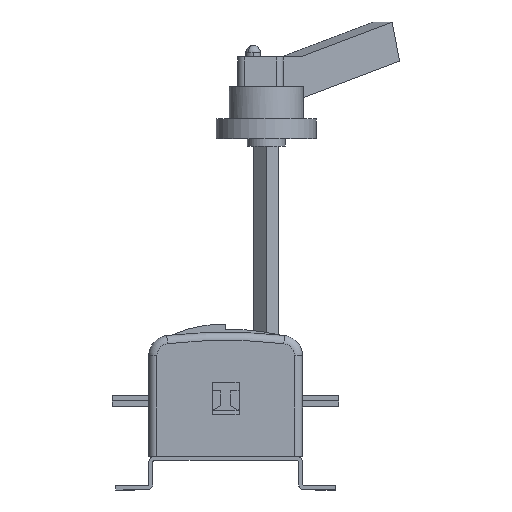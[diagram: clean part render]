
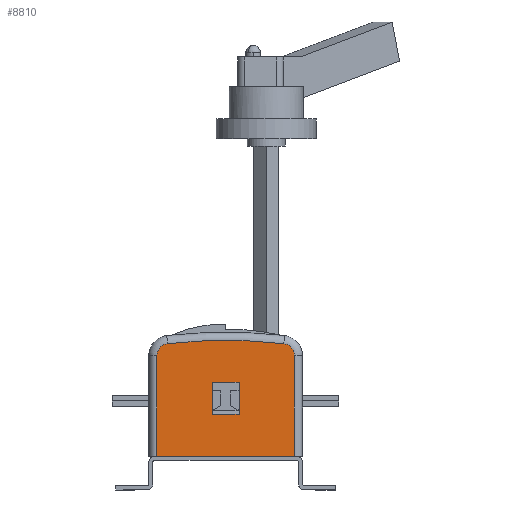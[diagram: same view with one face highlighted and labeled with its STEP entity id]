
A CAD part, left-side view. The second image highlights one B-rep face of the part: STEP entity #8810.
In plain terms, the highlighted planar face has unit normal (-1, 0, 0).
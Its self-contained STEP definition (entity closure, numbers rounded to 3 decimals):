
#116 = ORIENTED_EDGE ( 'NONE', *, *, #2321, .T. ) ;
#210 = EDGE_CURVE ( 'NONE', #6274, #11859, #9966, .T. ) ;
#326 = CARTESIAN_POINT ( 'NONE',  ( -249., -13.036, 108.516 ) ) ;
#330 = DIRECTION ( 'NONE',  ( 0., 1., 0. ) ) ;
#471 = EDGE_CURVE ( 'NONE', #4280, #2164, #4215, .T. ) ;
#644 = CIRCLE ( 'NONE', #10342, 9. ) ;
#739 = CARTESIAN_POINT ( 'NONE',  ( -249., 81., 99.576 ) ) ;
#773 = DIRECTION ( 'NONE',  ( 0., -1., 0. ) ) ;
#821 = CARTESIAN_POINT ( 'NONE',  ( -249., 30., -263. ) ) ;
#829 = DIRECTION ( 'NONE',  ( 0., 0., 1. ) ) ;
#841 = CARTESIAN_POINT ( 'NONE',  ( -249., 40., 80. ) ) ;
#1028 = VERTEX_POINT ( 'NONE', #841 ) ;
#1188 = CARTESIAN_POINT ( 'NONE',  ( -249., 72., 99.576 ) ) ;
#1281 = AXIS2_PLACEMENT_3D ( 'NONE', #5712, #4799, #5637 ) ;
#1446 = DIRECTION ( 'NONE',  ( 0., 0., -1. ) ) ;
#1587 = EDGE_CURVE ( 'NONE', #6274, #10634, #7864, .T. ) ;
#1747 = EDGE_CURVE ( 'NONE', #2164, #2145, #10164, .T. ) ;
#1827 = CARTESIAN_POINT ( 'NONE',  ( -249., 40., 56. ) ) ;
#1890 = AXIS2_PLACEMENT_3D ( 'NONE', #1188, #4865, #3008 ) ;
#2066 = CARTESIAN_POINT ( 'NONE',  ( -249., 20., 80. ) ) ;
#2145 = VERTEX_POINT ( 'NONE', #739 ) ;
#2164 = VERTEX_POINT ( 'NONE', #3648 ) ;
#2223 = CARTESIAN_POINT ( 'NONE',  ( -249., 20., 56. ) ) ;
#2321 = EDGE_CURVE ( 'NONE', #10634, #4280, #644, .T. ) ;
#2349 = VERTEX_POINT ( 'NONE', #2223 ) ;
#2698 = ORIENTED_EDGE ( 'NONE', *, *, #4512, .F. ) ;
#2909 = EDGE_LOOP ( 'NONE', ( #4701, #6748, #116, #5320, #3164, #3082 ) ) ;
#2978 = EDGE_LOOP ( 'NONE', ( #2698, #7574, #7881, #11736 ) ) ;
#3008 = DIRECTION ( 'NONE',  ( 0., 0., -1. ) ) ;
#3082 = ORIENTED_EDGE ( 'NONE', *, *, #6892, .T. ) ;
#3164 = ORIENTED_EDGE ( 'NONE', *, *, #1747, .T. ) ;
#3169 = DIRECTION ( 'NONE',  ( 0., 0., -1. ) ) ;
#3611 = VECTOR ( 'NONE', #773, 1000. ) ;
#3648 = CARTESIAN_POINT ( 'NONE',  ( -249., 73.036, 108.516 ) ) ;
#3651 = DIRECTION ( 'NONE',  ( 0., 0., -1. ) ) ;
#3720 = CARTESIAN_POINT ( 'NONE',  ( -249., -12., 99.576 ) ) ;
#3752 = LINE ( 'NONE', #1827, #3611 ) ;
#4215 = CIRCLE ( 'NONE', #11075, 374. ) ;
#4280 = VERTEX_POINT ( 'NONE', #326 ) ;
#4501 = FACE_OUTER_BOUND ( 'NONE', #2909, .T. ) ;
#4512 = EDGE_CURVE ( 'NONE', #7463, #2349, #3752, .T. ) ;
#4596 = PLANE ( 'NONE',  #1281 ) ;
#4598 = CARTESIAN_POINT ( 'NONE',  ( -249., 40., 80. ) ) ;
#4690 = DIRECTION ( 'NONE',  ( 0., 0., -1. ) ) ;
#4701 = ORIENTED_EDGE ( 'NONE', *, *, #210, .F. ) ;
#4799 = DIRECTION ( 'NONE',  ( 1., 0., 0. ) ) ;
#4865 = DIRECTION ( 'NONE',  ( -1., 0., 0. ) ) ;
#5062 = VECTOR ( 'NONE', #829, 1000. ) ;
#5320 = ORIENTED_EDGE ( 'NONE', *, *, #471, .T. ) ;
#5637 = DIRECTION ( 'NONE',  ( 0., 0., -1. ) ) ;
#5652 = EDGE_CURVE ( 'NONE', #11918, #2349, #11985, .T. ) ;
#5712 = CARTESIAN_POINT ( 'NONE',  ( -249., 30., -263. ) ) ;
#6078 = CARTESIAN_POINT ( 'NONE',  ( -249., 81., 25. ) ) ;
#6260 = VECTOR ( 'NONE', #7410, 1000. ) ;
#6274 = VERTEX_POINT ( 'NONE', #6953 ) ;
#6583 = LINE ( 'NONE', #8773, #11496 ) ;
#6748 = ORIENTED_EDGE ( 'NONE', *, *, #1587, .T. ) ;
#6892 = EDGE_CURVE ( 'NONE', #2145, #11859, #11494, .T. ) ;
#6953 = CARTESIAN_POINT ( 'NONE',  ( -249., -21., 25. ) ) ;
#7311 = FACE_BOUND ( 'NONE', #2978, .T. ) ;
#7410 = DIRECTION ( 'NONE',  ( 0., -1., 0. ) ) ;
#7463 = VERTEX_POINT ( 'NONE', #7977 ) ;
#7511 = VECTOR ( 'NONE', #9590, 1000. ) ;
#7574 = ORIENTED_EDGE ( 'NONE', *, *, #10987, .F. ) ;
#7864 = LINE ( 'NONE', #11219, #5062 ) ;
#7881 = ORIENTED_EDGE ( 'NONE', *, *, #11776, .T. ) ;
#7977 = CARTESIAN_POINT ( 'NONE',  ( -249., 40., 56. ) ) ;
#8183 = VECTOR ( 'NONE', #1446, 1000. ) ;
#8773 = CARTESIAN_POINT ( 'NONE',  ( -249., 40., 56. ) ) ;
#8810 = ADVANCED_FACE ( 'NONE', ( #7311, #4501 ), #4596, .F. ) ;
#9092 = VECTOR ( 'NONE', #330, 1000. ) ;
#9307 = LINE ( 'NONE', #4598, #6260 ) ;
#9379 = CARTESIAN_POINT ( 'NONE',  ( -249., 81., 25. ) ) ;
#9590 = DIRECTION ( 'NONE',  ( 0., 0., -1. ) ) ;
#9966 = LINE ( 'NONE', #10405, #9092 ) ;
#10164 = CIRCLE ( 'NONE', #1890, 9. ) ;
#10276 = DIRECTION ( 'NONE',  ( -1., 0., 0. ) ) ;
#10342 = AXIS2_PLACEMENT_3D ( 'NONE', #3720, #10276, #4690 ) ;
#10403 = CARTESIAN_POINT ( 'NONE',  ( -249., 20., 56. ) ) ;
#10405 = CARTESIAN_POINT ( 'NONE',  ( -249., 87., 25. ) ) ;
#10634 = VERTEX_POINT ( 'NONE', #11234 ) ;
#10987 = EDGE_CURVE ( 'NONE', #1028, #7463, #6583, .T. ) ;
#11075 = AXIS2_PLACEMENT_3D ( 'NONE', #821, #11732, #3651 ) ;
#11219 = CARTESIAN_POINT ( 'NONE',  ( -249., -21., 99.576 ) ) ;
#11234 = CARTESIAN_POINT ( 'NONE',  ( -249., -21., 99.576 ) ) ;
#11494 = LINE ( 'NONE', #6078, #8183 ) ;
#11496 = VECTOR ( 'NONE', #3169, 1000. ) ;
#11732 = DIRECTION ( 'NONE',  ( -1., 0., 0. ) ) ;
#11736 = ORIENTED_EDGE ( 'NONE', *, *, #5652, .T. ) ;
#11776 = EDGE_CURVE ( 'NONE', #1028, #11918, #9307, .T. ) ;
#11859 = VERTEX_POINT ( 'NONE', #9379 ) ;
#11918 = VERTEX_POINT ( 'NONE', #2066 ) ;
#11985 = LINE ( 'NONE', #10403, #7511 ) ;
